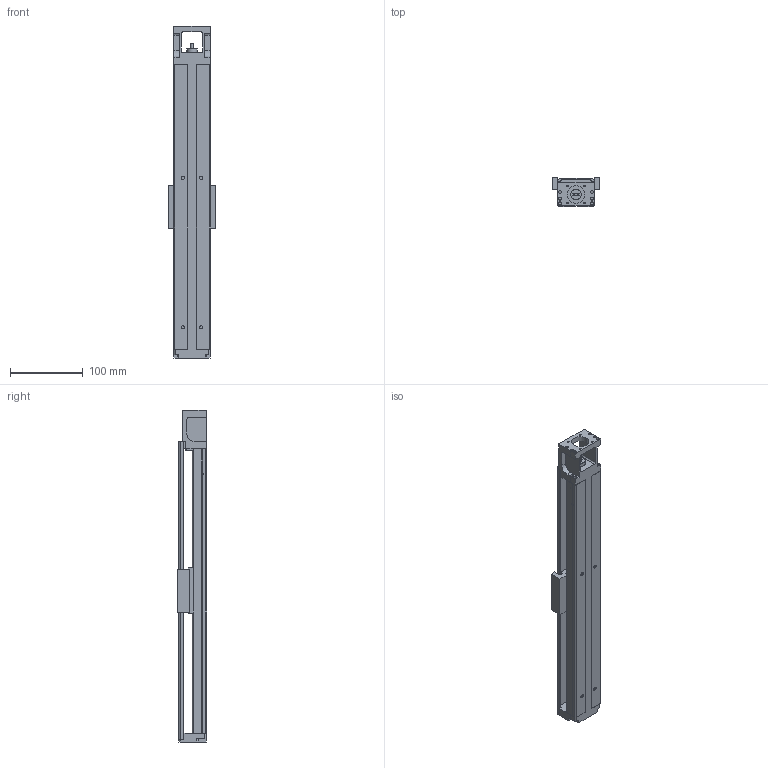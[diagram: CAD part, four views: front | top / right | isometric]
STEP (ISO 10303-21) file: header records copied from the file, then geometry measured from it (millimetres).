
FILE_DESCRIPTION (( 'STEP AP203' ), '1' );
FILE_NAME ('GSX50C-300-LL08025-P7.STEP', '2013-11-02T01:49:40', ( '微软用户' ), ( '微软中国' ), 'SwSTEP 2.0', 'SolidWorks 2010', '' );
FILE_SCHEMA (( 'CONFIG_CONTROL_DESIGN' ));
Length unit declared in the file: millimetre
Products named in the file (1): GSX50C-300-LL08025-P7
Bounding box: 65 x 40 x 455 mm (x, y, z)
Volume: 374082.5 mm3; surface area: 157654.9 mm2
Topology: 3 solids, 8 shells, 377 faces, 977 edges, 610 vertices
Faces by surface type: plane 170, cylinder 159, cone 48
Entity records: 11370 total; most frequent: DIRECTION 2005, CARTESIAN_POINT 1973, ORIENTED_EDGE 1866, EDGE_CURVE 933, AXIS2_PLACEMENT_3D 706, VERTEX_POINT 610, LINE 593, VECTOR 593
